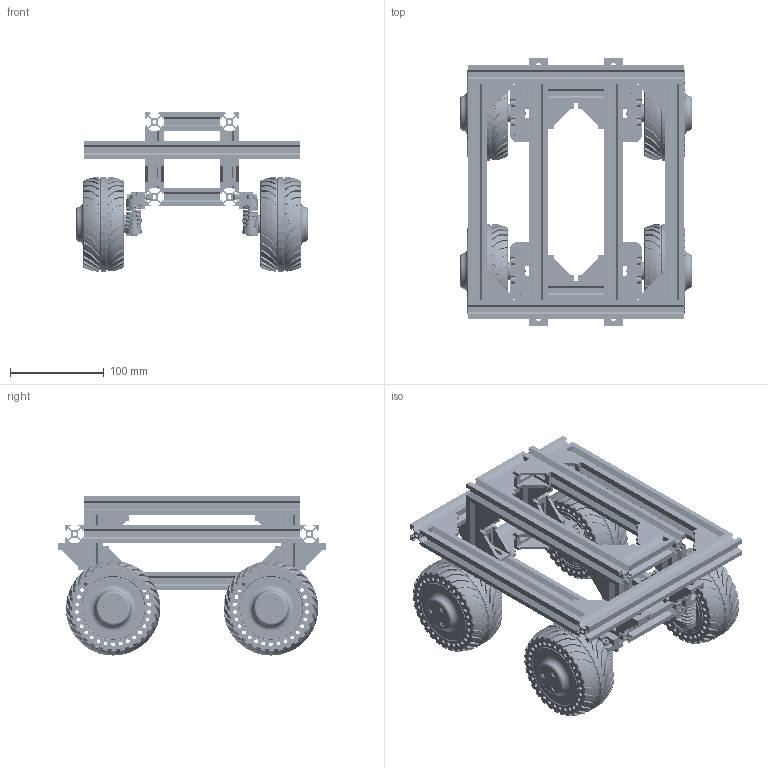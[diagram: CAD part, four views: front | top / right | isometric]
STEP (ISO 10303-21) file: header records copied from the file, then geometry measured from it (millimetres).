
FILE_DESCRIPTION(/* description */ (''),/* implementation_level */ '2;1');
FILE_NAME(/* name */ '',/* time_stamp */ '2024-07-30T17:59:14+08:00',/* author */ (''),/* organization */ (''),/* preprocessor_version */ 'ST-DEVELOPER v20',/* originating_system */ 'Autodesk Translation Framework v13.14.0.145',/* authorisation */ '');
FILE_SCHEMA (('AUTOMOTIVE_DESIGN { 1 0 10303 214 3 1 1 }'));
Products named in the file (33): 型材底盘; UGV Suspension (A); M4 T-Nut for 2020 extrusion; M4 T-Nut for 2020 extrusion_1; DDSM115; UGV Suspension (A)_1; M4 T-Nut for 2020 extrusion_2; M4 T-Nut for 2020 extrusion_3; DDSM115_1; UGV Suspension (A)_2; M4 T-Nut for 2020 extrusion_4; M4 T-Nut for 2020 extrusion_5; DDSM115_2; UGV Suspension (A)_3; S115-A V2; S115-B; S115-C; Document; 黑色金属杯头内六角螺丝M
4_40 v1; DIN985 M4 FIBER SOMUN; 黑色金属杯头内六角螺丝M
4_5 v1; M4 T-Nut for 2020 extrusion_6; M4 T-Nut for 2020 extrusion_7; M4 T-Nut for 2020 extrusion_1_1; 黑色金属沉头螺丝 KM2.5*8; DDSM115_3; M0601C; BM.SJ.AA00037.01; ÖÎ¾ßÑ¹»·-20220718; M2.5-8; 2020 V-Slot 500 v17 v2 (1); 2020 V-Slot 500 v17 v2; 2020角码
Assembly tree (156 placements, depth 4):
  型材底盘
    2020 V-Slot 500 v17 v2  x8
    UGV Suspension (A)
      S115-A V2
      S115-B
      S115-C
      Document
      黑色金属杯头内六角螺丝M
4_40 v1  x2
      DIN985 M4 FIBER SOMUN  x2
      黑色金属杯头内六角螺丝M
4_5 v1  x2
      M4 T-Nut for 2020 extrusion
        M4 T-Nut for 2020 extrusion_1_1
      M4 T-Nut for 2020 extrusion_1
        M4 T-Nut for 2020 extrusion_1_1
      黑色金属沉头螺丝 KM2.5*8  x7
      DDSM115
        M0601C
        ÖÎ¾ßÑ¹»·-20220718
        M2.5-8  x3
        BM.SJ.AA00037.01
    UGV Suspension (A)_1
      S115-A V2
      S115-B
      S115-C
      Document
      黑色金属杯头内六角螺丝M
4_40 v1  x2
      DIN985 M4 FIBER SOMUN  x2
      黑色金属杯头内六角螺丝M
4_5 v1  x2
      M4 T-Nut for 2020 extrusion_2
        M4 T-Nut for 2020 extrusion_1_1
      M4 T-Nut for 2020 extrusion_3
        M4 T-Nut for 2020 extrusion_1_1
      黑色金属沉头螺丝 KM2.5*8  x7
      DDSM115_1
        M0601C
        ÖÎ¾ßÑ¹»·-20220718
        M2.5-8  x3
        BM.SJ.AA00037.01
    UGV Suspension (A)_2
      S115-A V2
      S115-B
      S115-C
      Document
      黑色金属杯头内六角螺丝M
4_40 v1  x2
      DIN985 M4 FIBER SOMUN  x2
      黑色金属杯头内六角螺丝M
4_5 v1  x2
      M4 T-Nut for 2020 extrusion_4
        M4 T-Nut for 2020 extrusion_1_1
      M4 T-Nut for 2020 extrusion_5
        M4 T-Nut for 2020 extrusion_1_1
      黑色金属沉头螺丝 KM2.5*8  x7
      DDSM115_2
        M0601C
        BM.SJ.AA00037.01
        ÖÎ¾ßÑ¹»·-20220718
        M2.5-8  x3
    UGV Suspension (A)_3
      S115-A V2
      S115-B
      S115-C
Bounding box: 246.7 x 285.59 x 169.36 mm (x, y, z)
Volume: 1887891.2 mm3; surface area: 860778.6 mm2
Topology: 144 solids, 172 shells, 11792 faces, 30848 edges, 19776 vertices
Faces by surface type: bspline 3904, plane 3536, cylinder 1852, torus 1360, cone 660, sphere 480
Full cylindrical faces by diameter (mm): 1.567 x12, 2.05 x44, 2.5 x52, 2.8 x12, 3 x8, 3.1 x8, 3.3 x24, 3.678 x28, 4 x160, 4.109 x40, 4.2 x12, 4.234 x16, 4.6 x12, 4.8 x4, 5 x4, 6 x12, 6.4 x8, 6.9 x16, 7.22 x16, 8.4 x16, 10 x4, 11.6 x8, 12 x8, 18.5 x4, 19 x4, 20.4 x4, 21.4 x4, 57 x4, 62.7 x4, 63 x4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
Entity records: 196520 total; most frequent: CARTESIAN_POINT 146067, ORIENTED_EDGE 11794, DIRECTION 7842, EDGE_CURVE 5899, VERTEX_POINT 3799, AXIS2_PLACEMENT_3D 2931, B_SPLINE_CURVE_WITH_KNOTS 2511, EDGE_LOOP 2424
